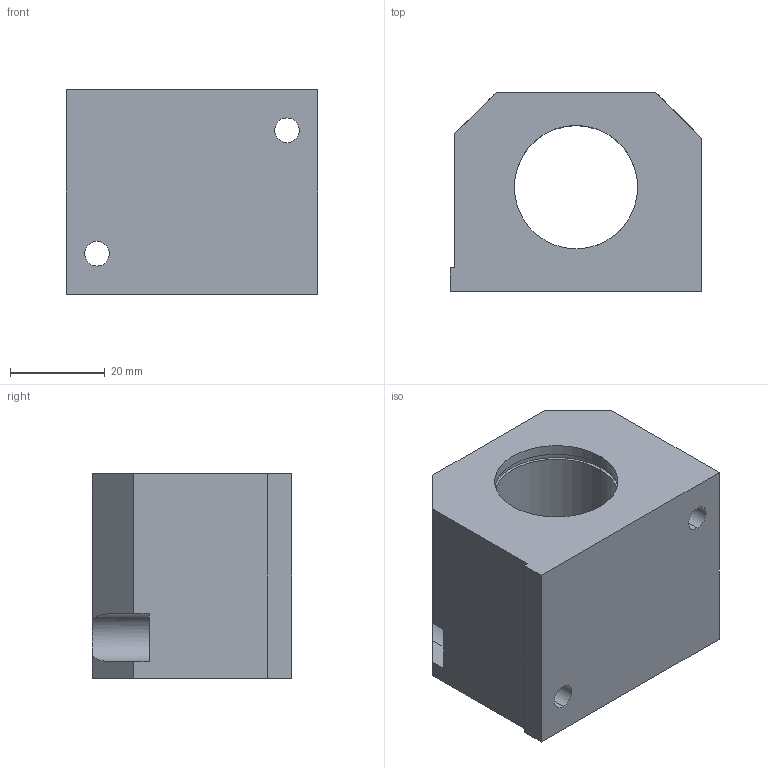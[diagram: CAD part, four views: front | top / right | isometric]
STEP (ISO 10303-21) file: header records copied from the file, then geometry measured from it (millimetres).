
FILE_DESCRIPTION (( 'STEP AP214' ), '1' );
FILE_NAME ('KG35-16.step', '2020-03-04T13:17:55', ( '' ), ( '' ), 'SwSTEP 2.0', 'SolidWorks 2019', '' );
FILE_SCHEMA (( 'AUTOMOTIVE_DESIGN' ));
Length unit declared in the file: millimetre
Products named in the file (1): KG35-16
Bounding box: 53 x 42 x 43 mm (x, y, z)
Volume: 64093.7 mm3; surface area: 16159.2 mm2
Topology: 1 solids, 1 shells, 44 faces, 110 edges, 72 vertices
Faces by surface type: plane 22, cylinder 20, cone 2
Entity records: 1492 total; most frequent: CARTESIAN_POINT 299, DIRECTION 232, ORIENTED_EDGE 220, EDGE_CURVE 110, AXIS2_PLACEMENT_3D 83, VERTEX_POINT 72, VECTOR 66, LINE 66
